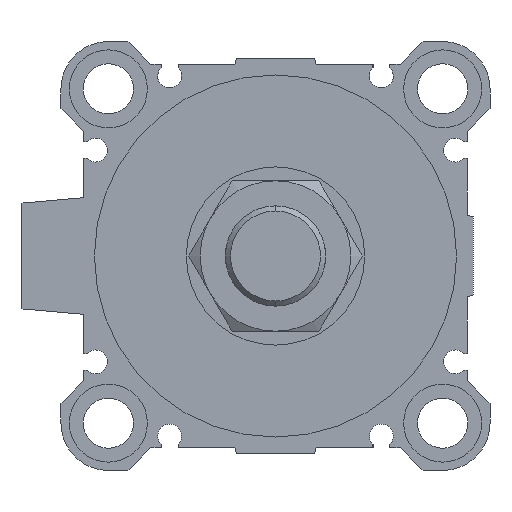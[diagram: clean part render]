
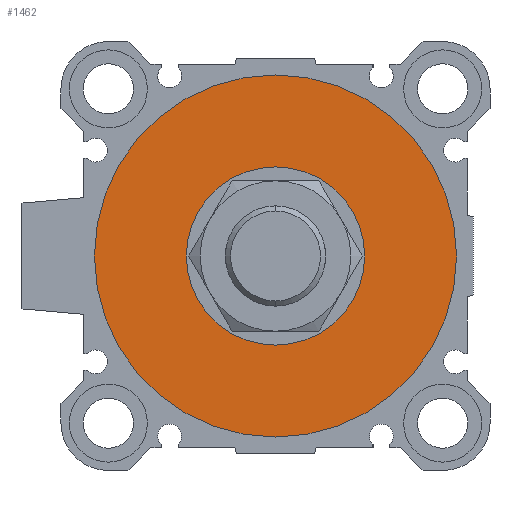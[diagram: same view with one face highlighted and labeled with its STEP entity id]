
A CAD part, left-side view. The second image highlights one B-rep face of the part: STEP entity #1462.
In plain terms, the highlighted planar face has unit normal (-1, 0, 0).
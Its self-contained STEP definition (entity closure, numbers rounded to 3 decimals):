
#260 = DIRECTION ( 'NONE',  ( 0., 1., 0. ) ) ;
#364 = CIRCLE ( 'NONE', #4897, 32.5 ) ;
#640 = ORIENTED_EDGE ( 'NONE', *, *, #5880, .F. ) ;
#660 = DIRECTION ( 'NONE',  ( 1., 0., 0. ) ) ;
#789 = CARTESIAN_POINT ( 'NONE',  ( 4., 0., 0. ) ) ;
#828 = CARTESIAN_POINT ( 'NONE',  ( 4., 0., 0. ) ) ;
#1052 = CARTESIAN_POINT ( 'NONE',  ( 4., 0., 32.5 ) ) ;
#1206 = AXIS2_PLACEMENT_3D ( 'NONE', #789, #2616, #6068 ) ;
#1462 = ADVANCED_FACE ( 'NONE', ( #4991, #3297 ), #2617, .F. ) ;
#1505 = DIRECTION ( 'NONE',  ( 1., 0., 0. ) ) ;
#1565 = DIRECTION ( 'NONE',  ( 1., 0., 0. ) ) ;
#1674 = AXIS2_PLACEMENT_3D ( 'NONE', #2380, #660, #2461 ) ;
#2380 = CARTESIAN_POINT ( 'NONE',  ( 4., 0., 0. ) ) ;
#2408 = EDGE_LOOP ( 'NONE', ( #5345, #640 ) ) ;
#2424 = CARTESIAN_POINT ( 'NONE',  ( 4., 0., 0. ) ) ;
#2461 = DIRECTION ( 'NONE',  ( 0., 0., -1. ) ) ;
#2616 = DIRECTION ( 'NONE',  ( 1., 0., 0. ) ) ;
#2617 = PLANE ( 'NONE',  #6979 ) ;
#3155 = VERTEX_POINT ( 'NONE', #1052 ) ;
#3297 = FACE_BOUND ( 'NONE', #5693, .T. ) ;
#3321 = CARTESIAN_POINT ( 'NONE',  ( 4., 0., 0. ) ) ;
#3376 = VERTEX_POINT ( 'NONE', #7310 ) ;
#3476 = CARTESIAN_POINT ( 'NONE',  ( 4., 0., -16. ) ) ;
#3935 = DIRECTION ( 'NONE',  ( 0., 0., -1. ) ) ;
#4032 = EDGE_CURVE ( 'NONE', #6016, #3376, #6216, .T. ) ;
#4463 = ORIENTED_EDGE ( 'NONE', *, *, #6831, .T. ) ;
#4897 = AXIS2_PLACEMENT_3D ( 'NONE', #3321, #1565, #3935 ) ;
#4991 = FACE_OUTER_BOUND ( 'NONE', #2408, .T. ) ;
#5270 = VERTEX_POINT ( 'NONE', #5905 ) ;
#5345 = ORIENTED_EDGE ( 'NONE', *, *, #5761, .F. ) ;
#5585 = CIRCLE ( 'NONE', #1674, 32.5 ) ;
#5693 = EDGE_LOOP ( 'NONE', ( #4463, #6314 ) ) ;
#5761 = EDGE_CURVE ( 'NONE', #3155, #5270, #5585, .T. ) ;
#5869 = DIRECTION ( 'NONE',  ( 0., 0., -1. ) ) ;
#5880 = EDGE_CURVE ( 'NONE', #5270, #3155, #364, .T. ) ;
#5905 = CARTESIAN_POINT ( 'NONE',  ( 4., 0., -32.5 ) ) ;
#6016 = VERTEX_POINT ( 'NONE', #3476 ) ;
#6068 = DIRECTION ( 'NONE',  ( 0., 0., -1. ) ) ;
#6111 = AXIS2_PLACEMENT_3D ( 'NONE', #2424, #7105, #5869 ) ;
#6216 = CIRCLE ( 'NONE', #1206, 16. ) ;
#6314 = ORIENTED_EDGE ( 'NONE', *, *, #4032, .T. ) ;
#6831 = EDGE_CURVE ( 'NONE', #3376, #6016, #7094, .T. ) ;
#6979 = AXIS2_PLACEMENT_3D ( 'NONE', #828, #1505, #260 ) ;
#7094 = CIRCLE ( 'NONE', #6111, 16. ) ;
#7105 = DIRECTION ( 'NONE',  ( 1., 0., 0. ) ) ;
#7310 = CARTESIAN_POINT ( 'NONE',  ( 4., 0., 16. ) ) ;
